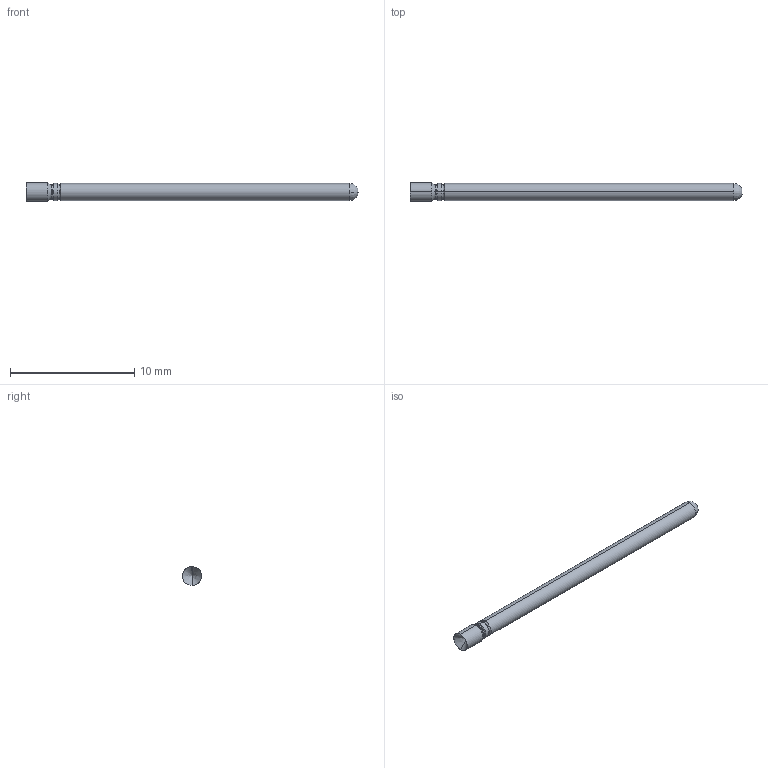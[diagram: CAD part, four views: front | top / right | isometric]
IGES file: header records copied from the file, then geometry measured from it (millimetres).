
Start section: SolidWorks IGES file using analytic representation for surfaces
Global section: file name: Z:\probe solid model mockups\Solidworks models\POGO-25 IGS files\POGO-25A Full.IGS; native system: SolidWorks 2006 by SolidWorks Corporation; preprocessor: SolidWorks 2006 by SolidWorks Corporation; author: tsakatani; date: 071214.084225; units: inch
Bounding box: 26.67 x 1.52 x 1.52 mm (x, y, z)
Surface area: 119.6 mm2 (no closed solid volume)
Topology: 0 solids, 0 shells, 22 faces, 132 edges, 130 vertices
Faces by surface type: revolution 16, bspline 6
